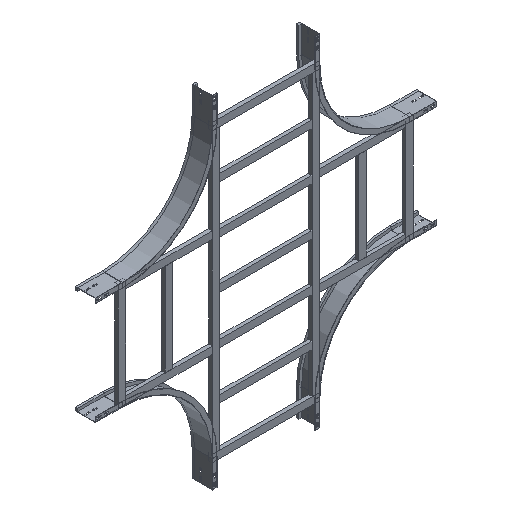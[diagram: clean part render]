
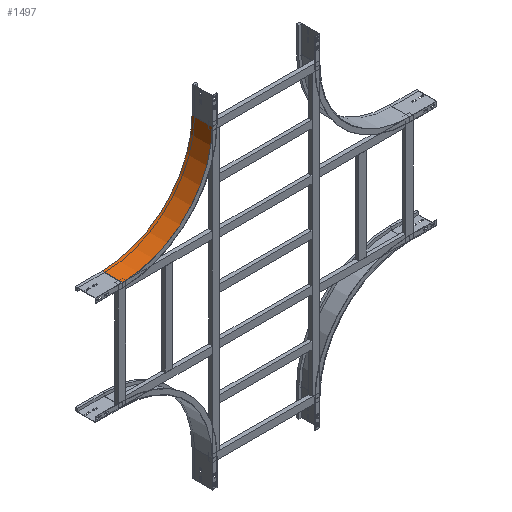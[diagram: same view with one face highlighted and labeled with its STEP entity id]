
A CAD part, isometric view. The second image highlights one B-rep face of the part: STEP entity #1497.
In plain terms, the highlighted cylindrical face has radius 500 mm (diameter 1000 mm), a partial arc.
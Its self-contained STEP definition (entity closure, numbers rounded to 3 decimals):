
#44 = CARTESIAN_POINT ( 'NONE',  ( 500., 0., -150. ) ) ;
#96 = CARTESIAN_POINT ( 'NONE',  ( 0., 0., -150. ) ) ;
#350 = VERTEX_POINT ( 'NONE', #2047 ) ;
#371 = CARTESIAN_POINT ( 'NONE',  ( 500., 0., -650. ) ) ;
#439 = EDGE_CURVE ( 'NONE', #2432, #2521, #1122, .T. ) ;
#491 = EDGE_CURVE ( 'NONE', #350, #2432, #2340, .T. ) ;
#621 = EDGE_CURVE ( 'NONE', #350, #2750, #748, .T. ) ;
#662 = ORIENTED_EDGE ( 'NONE', *, *, #621, .T. ) ;
#699 = CARTESIAN_POINT ( 'NONE',  ( 0., 112.5, -150. ) ) ;
#748 = CIRCLE ( 'NONE', #2652, 500. ) ;
#753 = FACE_OUTER_BOUND ( 'NONE', #2859, .T. ) ;
#767 = DIRECTION ( 'NONE',  ( 0., 0., -1. ) ) ;
#890 = CARTESIAN_POINT ( 'NONE',  ( 500., 112.5, -150. ) ) ;
#952 = ORIENTED_EDGE ( 'NONE', *, *, #439, .F. ) ;
#1040 = CARTESIAN_POINT ( 'NONE',  ( 500., 0., -150. ) ) ;
#1085 = DIRECTION ( 'NONE',  ( -1., 0., 0. ) ) ;
#1122 = CIRCLE ( 'NONE', #1782, 500. ) ;
#1257 = DIRECTION ( 'NONE',  ( 0., -1., 0. ) ) ;
#1347 = AXIS2_PLACEMENT_3D ( 'NONE', #44, #2050, #767 ) ;
#1388 = CYLINDRICAL_SURFACE ( 'NONE', #1347, 500. ) ;
#1497 = ADVANCED_FACE ( 'NONE', ( #753 ), #1388, .F. ) ;
#1593 = VECTOR ( 'NONE', #2244, 1000. ) ;
#1691 = DIRECTION ( 'NONE',  ( 0., 1., 0. ) ) ;
#1708 = EDGE_CURVE ( 'NONE', #2750, #2521, #2461, .T. ) ;
#1782 = AXIS2_PLACEMENT_3D ( 'NONE', #890, #2714, #1840 ) ;
#1840 = DIRECTION ( 'NONE',  ( -1., 0., 0. ) ) ;
#1869 = ORIENTED_EDGE ( 'NONE', *, *, #1708, .T. ) ;
#2047 = CARTESIAN_POINT ( 'NONE',  ( 0., 0., -150. ) ) ;
#2050 = DIRECTION ( 'NONE',  ( 0., -1., 0. ) ) ;
#2162 = VECTOR ( 'NONE', #1691, 1000. ) ;
#2244 = DIRECTION ( 'NONE',  ( 0., 1., 0. ) ) ;
#2340 = LINE ( 'NONE', #96, #2162 ) ;
#2432 = VERTEX_POINT ( 'NONE', #699 ) ;
#2461 = LINE ( 'NONE', #2490, #1593 ) ;
#2490 = CARTESIAN_POINT ( 'NONE',  ( 500., 0., -650. ) ) ;
#2521 = VERTEX_POINT ( 'NONE', #2759 ) ;
#2531 = ORIENTED_EDGE ( 'NONE', *, *, #491, .F. ) ;
#2652 = AXIS2_PLACEMENT_3D ( 'NONE', #1040, #1257, #1085 ) ;
#2714 = DIRECTION ( 'NONE',  ( 0., -1., 0. ) ) ;
#2750 = VERTEX_POINT ( 'NONE', #371 ) ;
#2759 = CARTESIAN_POINT ( 'NONE',  ( 500., 112.5, -650. ) ) ;
#2859 = EDGE_LOOP ( 'NONE', ( #952, #2531, #662, #1869 ) ) ;
